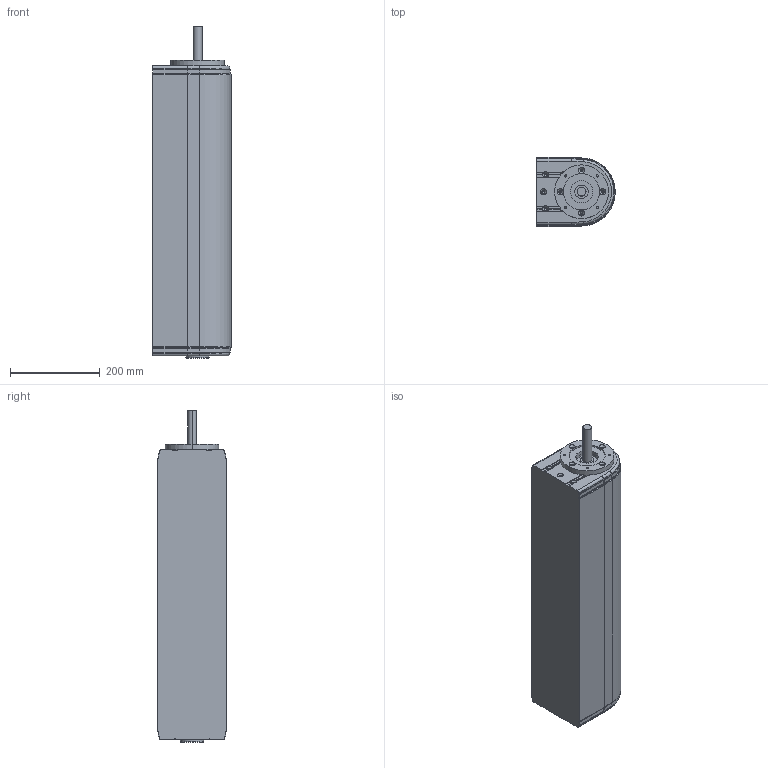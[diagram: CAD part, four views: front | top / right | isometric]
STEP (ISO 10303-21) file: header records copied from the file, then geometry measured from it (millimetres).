
FILE_DESCRIPTION (( 'STEP AP214' ), '1' );
FILE_NAME ('FABER - F2 2400 MDD20 GP.STEP', '2017-04-05T12:00:57', ( '' ), ( '' ), 'SwSTEP 2.0', 'SolidWorks 2016', '' );
FILE_SCHEMA (( 'AUTOMOTIVE_DESIGN' ));
Length unit declared in the file: millimetre
Products named in the file (1): FABER - F2 2400 MDD20 GP
Bounding box: 175.3 x 153.4 x 741 mm (x, y, z)
Volume: 15736917.2 mm3; surface area: 468558.3 mm2
Topology: 2 solids, 2 shells, 351 faces, 869 edges, 502 vertices
Faces by surface type: plane 139, cylinder 124, cone 74, torus 14
Entity records: 10440 total; most frequent: CARTESIAN_POINT 1984, DIRECTION 1779, ORIENTED_EDGE 1666, EDGE_CURVE 833, AXIS2_PLACEMENT_3D 675, VERTEX_POINT 502, LINE 429, VECTOR 429
